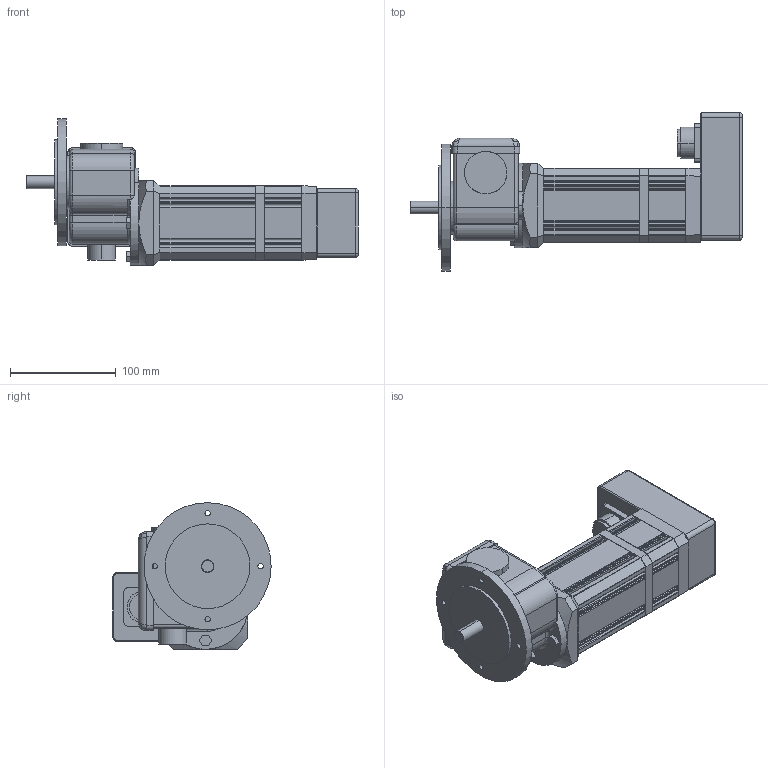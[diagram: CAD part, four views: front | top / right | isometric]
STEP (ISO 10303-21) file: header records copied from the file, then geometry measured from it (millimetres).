
FILE_DESCRIPTION(('OneSpaceDesigner STEP Export'),'2;1');
FILE_NAME('UECG303THL_GF23_Q.stp','2008-06-26T 8:22:35',(''),(''),'OneSpace Designer STEP processor (Jan. 2003) for AP214(CD)(Solid Model)','OneSpace Designer 12.01D 09-Jul-2004 (C) CoCreate Software GmbH','');
FILE_SCHEMA(('AUTOMOTIVE_DESIGN_CC2 {1 2 10303 214 -1 1 5 1}'));
Length unit declared in the file: millimetre
Products named in the file (2): UECG303THL_GF23_Q
Assembly tree (1 placements, depth 2):
  UECG303THL_GF23_Q
    UECG303THL_GF23_Q
Bounding box: 313.5 x 149.5 x 138.5 mm (x, y, z)
Volume: 1775046.9 mm3; surface area: 153482.4 mm2
Topology: 1 solids, 1 shells, 465 faces, 1230 edges, 780 vertices
Faces by surface type: plane 229, cylinder 197, torus 20, bspline 12, cone 6, sphere 1
Entity records: 15505 total; most frequent: CARTESIAN_POINT 4561, ORIENTED_EDGE 2458, DIRECTION 2079, EDGE_CURVE 1229, VERTEX_POINT 780, VECTOR 697, LINE 697, AXIS2_PLACEMENT_3D 691
